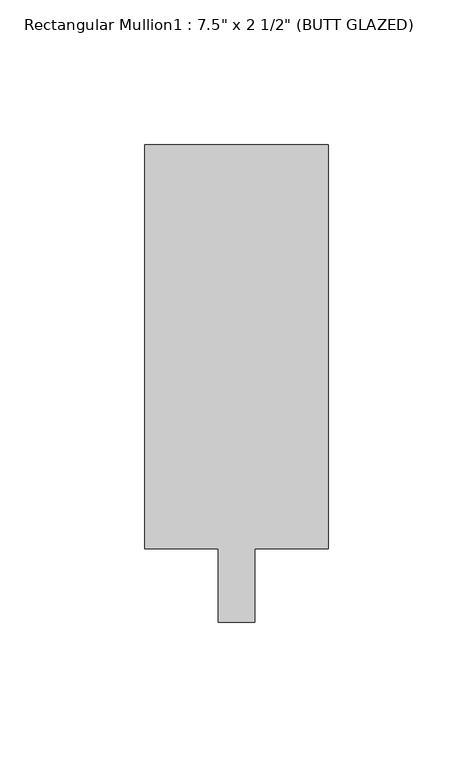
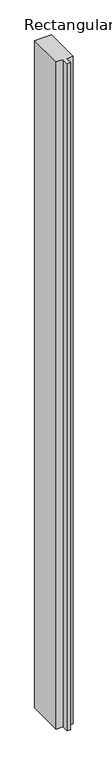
"""IFC4 building model written with IfcOpenShell, lengths in millimetres: member geometry."""

from ifc_helpers import new_model, si_unit, frame, origin, place, context, project, spatial, polyline, outline, extrude, source, transform, mapped, element, save


def member_d67d6218(model_context):
    return source(origin(), model_context, "Body", "SweptSolid", [
        extrude(outline(polyline([(31.75, 165.1), (31.75, 25.4), (6.35, 25.4), (6.35, 0.0), (-6.35, 0.0), (-6.35, 25.4), (-31.75, 25.4), (-31.75, 165.1), (31.75, 165.1)])), frame((0.0, 0.0, -2641.6), z_axis=(0.0, 0.0, 1.0), x_axis=(1.0, 0.0, 0.0)), (0.0, 0.0, 1.0), 2641.6),
    ])


if __name__ == "__main__":
    model = new_model("IFC4")
    model_context = context("Model", 3, world=origin())
    ifc_project = project(units=[si_unit("LENGTHUNIT", "METRE", prefix="MILLI")], contexts=[model_context])
    site = spatial("IfcSite", under=ifc_project)
    building = spatial("IfcBuilding", under=site)
    placement = place(None, origin())
    member_shape = member_d67d6218(model_context)
    element("IfcMember", 1, ObjectType="Rectangular Mullion1 : 7.5\" x 2 1/2\" (BUTT GLAZED)", at=placement, inside=building, context=model_context, shape_type="MappedRepresentation", body=[
        mapped(member_shape, transform((0.0, 0.0, 0.0), x_axis=(1.0, 0.0, 0.0), y_axis=(0.0, 1.0, 0.0), z_axis=(0.0, 0.0, 1.0))),
    ])
    save(model, "model.ifc")
